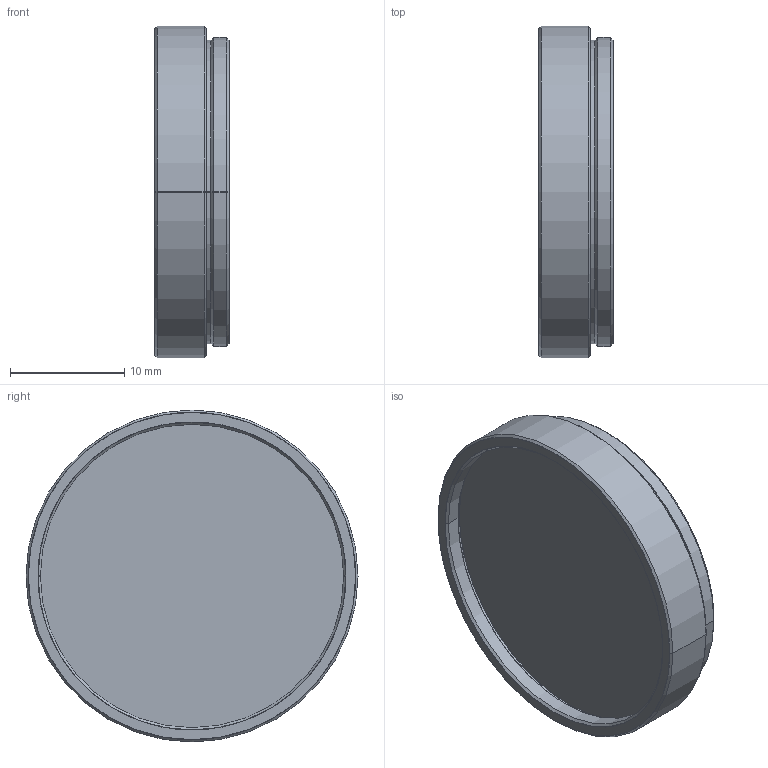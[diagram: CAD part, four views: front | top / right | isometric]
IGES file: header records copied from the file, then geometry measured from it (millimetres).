
Start section: SolidWorks IGES file using analytic representation for surfaces
Bounding box: 6.5 x 29 x 29 mm (x, y, z)
Surface area: 2078.4 mm2 (no closed solid volume)
Topology: 0 solids, 0 shells, 25 faces, 400 edges, 400 vertices
Faces by surface type: revolution 20, bspline 5
